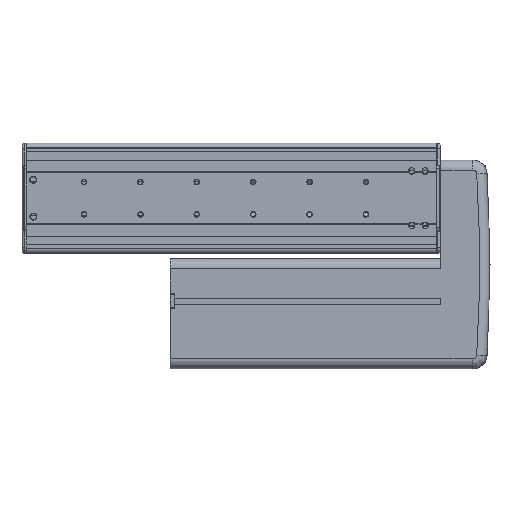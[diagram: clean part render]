
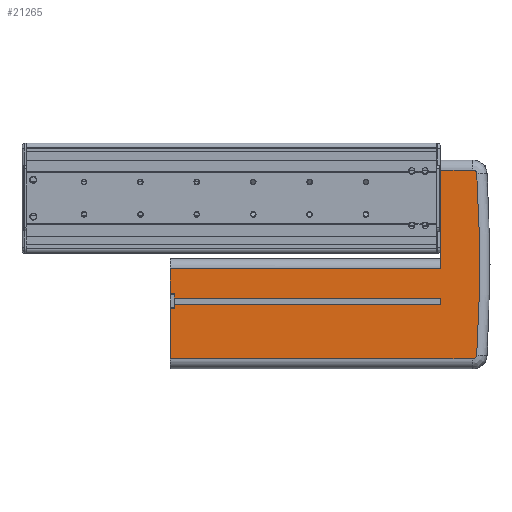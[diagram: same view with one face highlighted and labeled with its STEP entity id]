
A CAD part, front view. The second image highlights one B-rep face of the part: STEP entity #21265.
In plain terms, the highlighted planar face has unit normal (0, -1, 0).
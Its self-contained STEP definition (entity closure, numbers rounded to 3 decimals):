
#982=DIRECTION('',(-1.,0.,0.));
#983=VECTOR('',#982,189.);
#984=CARTESIAN_POINT('',(294.,5.,-75.1));
#985=LINE('',#984,#983);
#994=DIRECTION('',(0.,0.,1.));
#995=VECTOR('',#994,4.2);
#996=CARTESIAN_POINT('',(294.,5.,-75.1));
#997=LINE('',#996,#995);
#998=DIRECTION('',(0.,0.,-1.));
#999=VECTOR('',#998,3.4);
#1000=CARTESIAN_POINT('',(105.,5.,-67.5));
#1001=LINE('',#1000,#999);
#1002=DIRECTION('',(0.,0.,-1.));
#1003=VECTOR('',#1002,17.5);
#1004=CARTESIAN_POINT('',(102.,5.,-50.));
#1005=LINE('',#1004,#1003);
#1006=DIRECTION('',(1.,0.,0.));
#1007=VECTOR('',#1006,192.);
#1008=CARTESIAN_POINT('',(102.,5.,-50.));
#1009=LINE('',#1008,#1007);
#1010=DIRECTION('',(0.,0.,1.));
#1011=VECTOR('',#1010,70.);
#1012=CARTESIAN_POINT('',(294.,5.,-50.));
#1013=LINE('',#1012,#1011);
#1014=CARTESIAN_POINT('',(316.587,5.,16.999));
#1015=DIRECTION('',(0.,1.,0.));
#1016=DIRECTION('',(0.,0.,1.));
#1017=AXIS2_PLACEMENT_3D('',#1014,#1015,#1016);
#1019=CARTESIAN_POINT('',(-671.,5.,-47.));
#1020=DIRECTION('',(0.,1.,0.));
#1021=DIRECTION('',(0.998,0.,0.065));
#1022=AXIS2_PLACEMENT_3D('',#1019,#1020,#1021);
#1024=CARTESIAN_POINT('',(316.587,5.,-110.999));
#1025=DIRECTION('',(0.,1.,0.));
#1026=DIRECTION('',(0.998,0.,-0.065));
#1027=AXIS2_PLACEMENT_3D('',#1024,#1025,#1026);
#1029=DIRECTION('',(0.,0.,-1.));
#1030=VECTOR('',#1029,35.5);
#1031=CARTESIAN_POINT('',(102.,5.,-78.5));
#1032=LINE('',#1031,#1030);
#1033=DIRECTION('',(0.,0.,-1.));
#1034=VECTOR('',#1033,3.4);
#1035=CARTESIAN_POINT('',(105.,5.,-75.1));
#1036=LINE('',#1035,#1034);
#1053=DIRECTION('',(1.,0.,0.));
#1054=VECTOR('',#1053,189.);
#1055=CARTESIAN_POINT('',(105.,5.,-70.9));
#1056=LINE('',#1055,#1054);
#13500=DIRECTION('',(1.,0.,0.));
#13501=VECTOR('',#13500,192.);
#13502=CARTESIAN_POINT('',(102.,5.,-114.));
#13503=LINE('',#13502,#13501);
#13504=DIRECTION('',(1.,0.,0.));
#13505=VECTOR('',#13504,22.587);
#13506=CARTESIAN_POINT('',(294.,5.,-114.));
#13507=LINE('',#13506,#13505);
#13933=DIRECTION('',(-1.,0.,0.));
#13934=VECTOR('',#13933,22.587);
#13935=CARTESIAN_POINT('',(316.587,5.,20.));
#13936=LINE('',#13935,#13934);
#14593=DIRECTION('',(1.,0.,0.));
#14594=VECTOR('',#14593,3.);
#14595=CARTESIAN_POINT('',(102.,5.,-67.5));
#14596=LINE('',#14595,#14594);
#14617=DIRECTION('',(-1.,0.,0.));
#14618=VECTOR('',#14617,3.);
#14619=CARTESIAN_POINT('',(105.,5.,-78.5));
#14620=LINE('',#14619,#14618);
#15869=CARTESIAN_POINT('',(102.,5.,-114.));
#15870=VERTEX_POINT('',#15869);
#15871=CARTESIAN_POINT('',(102.,5.,-78.5));
#15872=VERTEX_POINT('',#15871);
#15881=CARTESIAN_POINT('',(102.,5.,-67.5));
#15882=VERTEX_POINT('',#15881);
#15883=CARTESIAN_POINT('',(102.,5.,-50.));
#15884=VERTEX_POINT('',#15883);
#16030=CARTESIAN_POINT('',(294.,5.,20.));
#16032=VERTEX_POINT('',#16030);
#16045=CARTESIAN_POINT('',(316.587,5.,
-114.));
#16046=VERTEX_POINT('',#16045);
#16047=CARTESIAN_POINT('',(319.582,5.,
-111.194));
#16048=VERTEX_POINT('',#16047);
#16049=CARTESIAN_POINT('',(319.582,5.,17.194));
#16050=VERTEX_POINT('',#16049);
#16051=CARTESIAN_POINT('',(316.587,5.,20.));
#16052=VERTEX_POINT('',#16051);
#16098=CARTESIAN_POINT('',(105.,5.,-75.1));
#16100=VERTEX_POINT('',#16098);
#16112=CARTESIAN_POINT('',(105.,5.,-70.9));
#16113=VERTEX_POINT('',#16112);
#19426=CARTESIAN_POINT('',(105.,5.,-67.5));
#19428=VERTEX_POINT('',#19426);
#19436=CARTESIAN_POINT('',(105.,5.,-78.5));
#19437=VERTEX_POINT('',#19436);
#19600=CARTESIAN_POINT('',(294.,5.,-75.1));
#19601=VERTEX_POINT('',#19600);
#19602=CARTESIAN_POINT('',(294.,5.,-70.9));
#19603=VERTEX_POINT('',#19602);
#19604=CARTESIAN_POINT('',(294.,5.,-50.));
#19605=VERTEX_POINT('',#19604);
#19612=CARTESIAN_POINT('',(294.,5.,-114.));
#19613=VERTEX_POINT('',#19612);
#21231=CARTESIAN_POINT('',(199.5,5.,-94.55));
#21232=DIRECTION('',(0.,1.,0.));
#21233=DIRECTION('',(0.,0.,-1.));
#21234=AXIS2_PLACEMENT_3D('',#21231,#21232,#21233);
#21235=PLANE('',#21234);
#21236=ORIENTED_EDGE('',*,*,#20903,.T.);
#21238=ORIENTED_EDGE('',*,*,#21237,.F.);
#21239=ORIENTED_EDGE('',*,*,#20764,.F.);
#21241=ORIENTED_EDGE('',*,*,#21240,.F.);
#21242=ORIENTED_EDGE('',*,*,#20517,.F.);
#21244=ORIENTED_EDGE('',*,*,#21243,.T.);
#21245=ORIENTED_EDGE('',*,*,#21122,.T.);
#21247=ORIENTED_EDGE('',*,*,#21246,.F.);
#21249=ORIENTED_EDGE('',*,*,#21248,.T.);
#21251=ORIENTED_EDGE('',*,*,#21250,.T.);
#21253=ORIENTED_EDGE('',*,*,#21252,.T.);
#21255=ORIENTED_EDGE('',*,*,#21254,.F.);
#21257=ORIENTED_EDGE('',*,*,#21256,.F.);
#21258=ORIENTED_EDGE('',*,*,#20529,.F.);
#21260=ORIENTED_EDGE('',*,*,#21259,.F.);
#21261=ORIENTED_EDGE('',*,*,#20780,.F.);
#21262=ORIENTED_EDGE('',*,*,#21221,.F.);
#21263=EDGE_LOOP('',(#21236,#21238,#21239,#21241,#21242,#21244,#21245,#21247,
#21249,#21251,#21253,#21255,#21257,#21258,#21260,#21261,#21262));
#21264=FACE_OUTER_BOUND('',#21263,.F.);
#21265=ADVANCED_FACE('',(#21264),#21235,.F.);
#1018=CIRCLE('',#1017,3.001);
#1023=CIRCLE('',#1022,992.66);
#1028=CIRCLE('',#1027,3.001);
#20517=EDGE_CURVE('',#15884,#15882,#1005,.T.);
#20529=EDGE_CURVE('',#15872,#15870,#1032,.T.);
#20764=EDGE_CURVE('',#19428,#16113,#1001,.T.);
#20780=EDGE_CURVE('',#16100,#19437,#1036,.T.);
#20903=EDGE_CURVE('',#19601,#19603,#997,.T.);
#21122=EDGE_CURVE('',#19605,#16032,#1013,.T.);
#21221=EDGE_CURVE('',#19601,#16100,#985,.T.);
#21237=EDGE_CURVE('',#16113,#19603,#1056,.T.);
#21240=EDGE_CURVE('',#15882,#19428,#14596,.T.);
#21243=EDGE_CURVE('',#15884,#19605,#1009,.T.);
#21246=EDGE_CURVE('',#16052,#16032,#13936,.T.);
#21248=EDGE_CURVE('',#16052,#16050,#1018,.T.);
#21250=EDGE_CURVE('',#16050,#16048,#1023,.T.);
#21252=EDGE_CURVE('',#16048,#16046,#1028,.T.);
#21254=EDGE_CURVE('',#19613,#16046,#13507,.T.);
#21256=EDGE_CURVE('',#15870,#19613,#13503,.T.);
#21259=EDGE_CURVE('',#19437,#15872,#14620,.T.);
